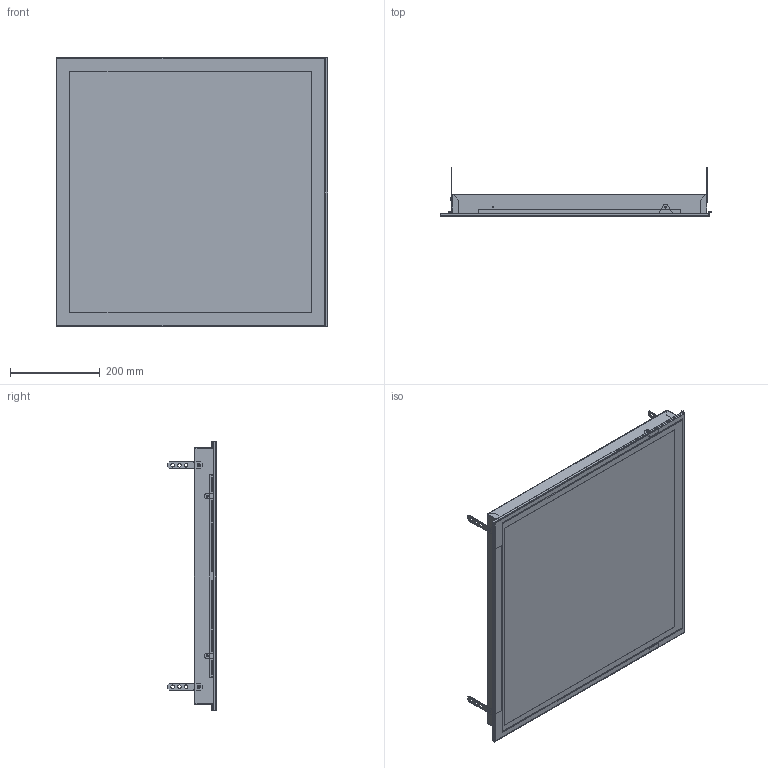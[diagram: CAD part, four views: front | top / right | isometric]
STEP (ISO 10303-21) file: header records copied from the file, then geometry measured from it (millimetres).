
FILE_DESCRIPTION(('STEP AP203'), '1');
FILE_NAME('Ñâåòèëüíèê 4 áåç íàïðàâëÿþùèõ', '', ('UNSPECIFIED'), ('UNSPECIFIED'), 'ASCON STEP Converter 1.6', 'ASCON Math Kernel', '');
FILE_SCHEMA(('CONFIG_CONTROL_DESIGN'));
Length unit declared in the file: millimetre
Products named in the file (12): ДКП008 01 004.00; ДКП008 01 004.04; ДКП008 01 003.01; ДКП008 01 003.03; ДКП008 01 004.05; ДКП008 01 004.07
Assembly tree (23 placements, depth 3):
  ДКП008 01 004.00
    ДКП008 01 004.04
    (unnamed)
      ДКП008 01 003.01
      (unnamed)  x4
      ДКП008 01 003.03  x4
    ДКП008 01 004.05
    ДКП008 01 004.07  x2
    (unnamed)  x4
    (unnamed)  x3
    (unnamed)
    (unnamed)
Bounding box: 605.4 x 110 x 599 mm (x, y, z)
Volume: 1310379.5 mm3; surface area: 1819627.3 mm2
Topology: 22 solids, 22 shells, 563 faces, 1317 edges, 820 vertices
Faces by surface type: plane 348, cylinder 151, bspline 40, torus 16, cone 8
Full cylindrical faces by diameter (mm): 1.85 x4, 2.2 x4, 2.5 x8, 3.2 x4, 3.5 x48, 4.4 x4, 4.5 x2, 8 x12, 20 x1
Entity records: 13006 total; most frequent: CARTESIAN_POINT 3464, DIRECTION 1746, ORIENTED_EDGE 1628, EDGE_CURVE 814, AXIS2_PLACEMENT_3D 606, EDGE_LOOP 566, VERTEX_POINT 534, LINE 534
